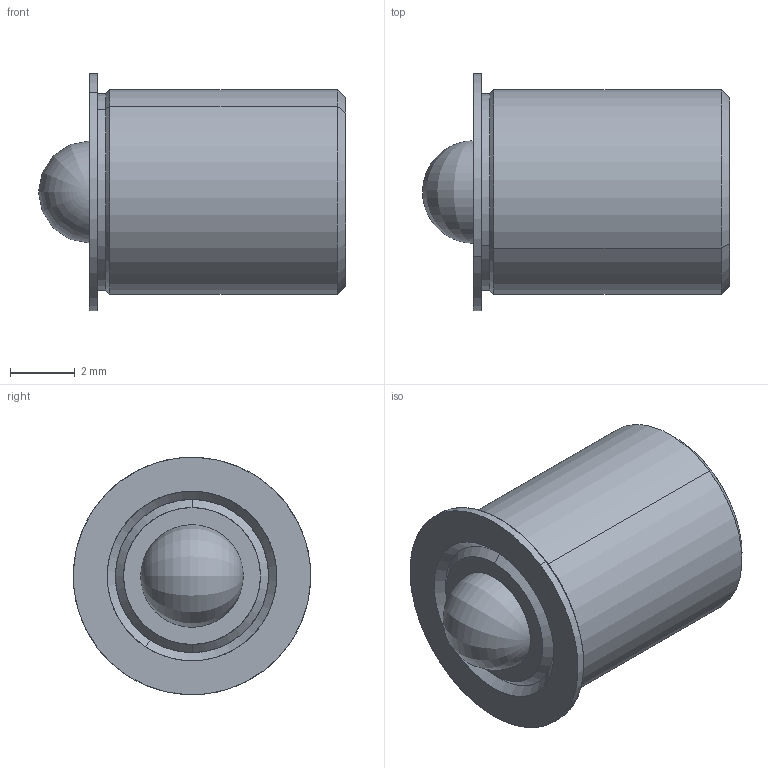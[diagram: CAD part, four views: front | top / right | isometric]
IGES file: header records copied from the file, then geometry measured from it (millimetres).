
Start section: SolidWorks IGES file using analytic representation for surfaces
Global section: file name: C:\Users\workpc\Desktop\KMA Solidworks\TSB187-100-375_312.IGS; native system: SolidWorks 2013; preprocessor: SolidWorks 2013; author: workpc; date: 130313.091226; units: inch
Bounding box: 9.52 x 7.37 x 7.37 mm (x, y, z)
Surface area: 509.4 mm2 (no closed solid volume)
Topology: 0 solids, 0 shells, 35 faces, 414 edges, 410 vertices
Faces by surface type: revolution 24, bspline 11
